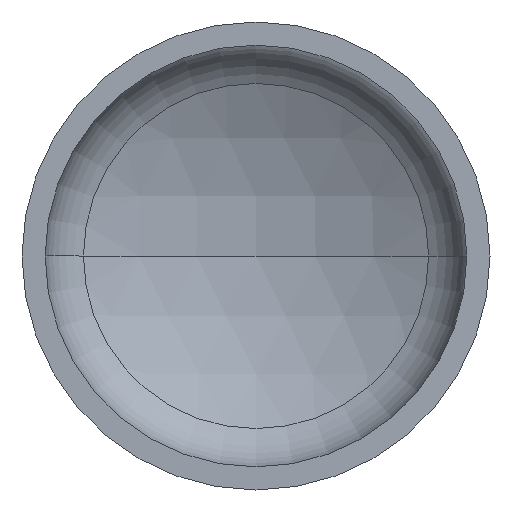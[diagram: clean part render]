
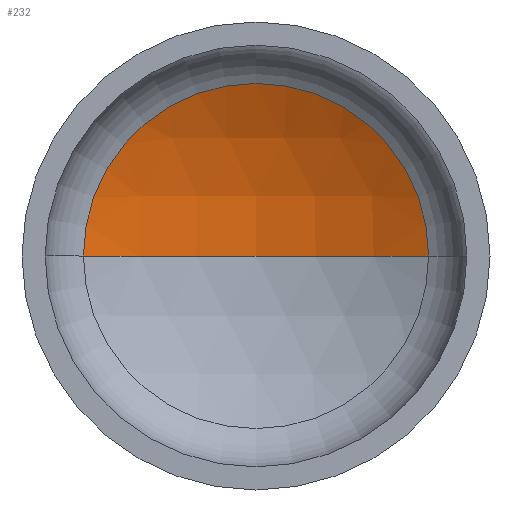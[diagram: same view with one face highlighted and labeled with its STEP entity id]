
A CAD part, front view. The second image highlights one B-rep face of the part: STEP entity #232.
In plain terms, the highlighted spherical face has radius 254 mm.
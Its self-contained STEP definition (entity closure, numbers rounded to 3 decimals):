
#4 = ORIENTED_EDGE ( 'NONE', *, *, #383, .F. ) ;
#7 = AXIS2_PLACEMENT_3D ( 'NONE', #330, #183, #281 ) ;
#11 = EDGE_LOOP ( 'NONE', ( #4, #99, #72 ) ) ;
#22 = VERTEX_POINT ( 'NONE', #293 ) ;
#23 = DIRECTION ( 'NONE',  ( 0., 0., -1. ) ) ;
#32 = AXIS2_PLACEMENT_3D ( 'NONE', #368, #275, #201 ) ;
#66 = VERTEX_POINT ( 'NONE', #362 ) ;
#72 = ORIENTED_EDGE ( 'NONE', *, *, #350, .T. ) ;
#90 = AXIS2_PLACEMENT_3D ( 'NONE', #258, #23, #138 ) ;
#99 = ORIENTED_EDGE ( 'NONE', *, *, #391, .T. ) ;
#105 = VERTEX_POINT ( 'NONE', #239 ) ;
#138 = DIRECTION ( 'NONE',  ( -1., 0., 0. ) ) ;
#160 = AXIS2_PLACEMENT_3D ( 'NONE', #390, #262, #410 ) ;
#167 = CIRCLE ( 'NONE', #7, 254. ) ;
#183 = DIRECTION ( 'NONE',  ( 0., 0., 1. ) ) ;
#201 = DIRECTION ( 'NONE',  ( 1., 0., 0. ) ) ;
#217 = SPHERICAL_SURFACE ( 'NONE', #90, 254. ) ;
#232 = ADVANCED_FACE ( 'NONE', ( #335 ), #217, .F. ) ;
#239 = CARTESIAN_POINT ( 'NONE',  ( 119.467, 99.124, 0. ) ) ;
#241 = CIRCLE ( 'NONE', #160, 254. ) ;
#252 = CIRCLE ( 'NONE', #32, 119.467 ) ;
#258 = CARTESIAN_POINT ( 'NONE',  ( 0., -125.027, 0. ) ) ;
#262 = DIRECTION ( 'NONE',  ( 0., 0., -1. ) ) ;
#275 = DIRECTION ( 'NONE',  ( 0., -1., 0. ) ) ;
#281 = DIRECTION ( 'NONE',  ( 1., 0., 0. ) ) ;
#293 = CARTESIAN_POINT ( 'NONE',  ( -119.467, 99.124, 0. ) ) ;
#330 = CARTESIAN_POINT ( 'NONE',  ( 0., -125.027, 0. ) ) ;
#335 = FACE_OUTER_BOUND ( 'NONE', #11, .T. ) ;
#350 = EDGE_CURVE ( 'NONE', #105, #22, #252, .T. ) ;
#362 = CARTESIAN_POINT ( 'NONE',  ( 0., 128.973, 0. ) ) ;
#368 = CARTESIAN_POINT ( 'NONE',  ( 0., 99.124, 0. ) ) ;
#383 = EDGE_CURVE ( 'NONE', #66, #22, #167, .T. ) ;
#390 = CARTESIAN_POINT ( 'NONE',  ( 0., -125.027, 0. ) ) ;
#391 = EDGE_CURVE ( 'NONE', #66, #105, #241, .T. ) ;
#410 = DIRECTION ( 'NONE',  ( -1., 0., 0. ) ) ;
